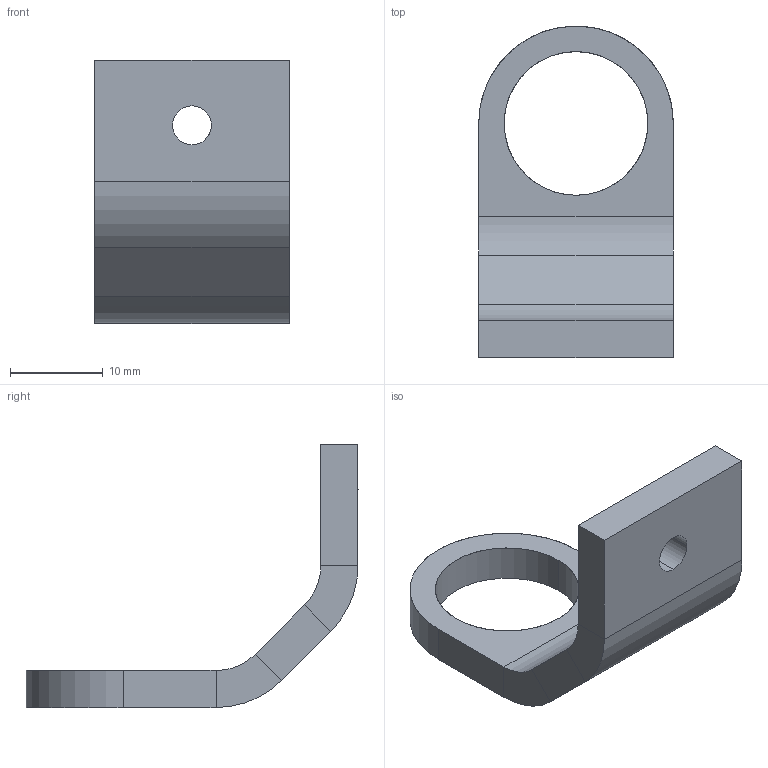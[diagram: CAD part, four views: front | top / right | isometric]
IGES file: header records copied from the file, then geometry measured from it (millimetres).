
Start section: START RECORD GO HERE.
Global section: file name: 20M_FR_10012 (BOTS Support).igs; native system: IBM CATIA IGES - CATIA Version 5 Release 19 ; preprocessor: CATIA Version 5 Release 19 ; author: Mathieu Jacquet; organization: MBPRO; date: 20200106.140148; units: millimetre
Bounding box: 21 x 35.81 x 28.38 mm (x, y, z)
Surface area: 2562.4 mm2 (no closed solid volume)
Topology: 0 solids, 0 shells, 28 faces, 126 edges, 127 vertices
Faces by surface type: plane 17, revolution 11
